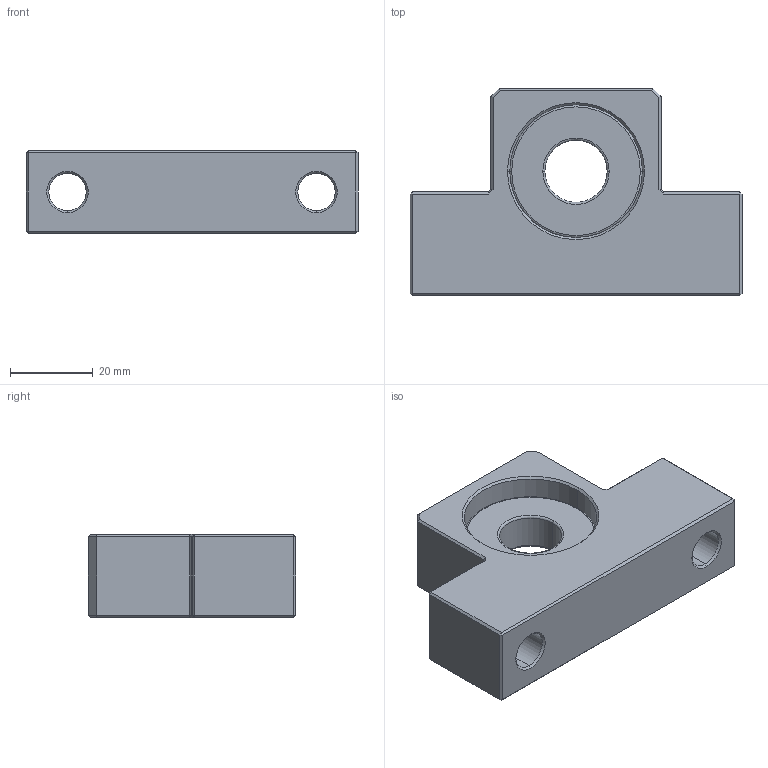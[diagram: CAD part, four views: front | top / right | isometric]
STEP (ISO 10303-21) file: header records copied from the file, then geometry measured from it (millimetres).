
FILE_DESCRIPTION (( 'STEP AP203' ), '1' );
FILE_NAME ('ESGF-15_203.STEP', '2013-02-26T01:32:00', ( '' ), ( '' ), 'SwSTEP 2.0', 'SolidWorks 2012', '' );
FILE_SCHEMA (( 'CONFIG_CONTROL_DESIGN' ));
Length unit declared in the file: millimetre
Products named in the file (1): ESGF-15_203
Bounding box: 80 x 50 x 20 mm (x, y, z)
Volume: 46677.6 mm3; surface area: 13392.7 mm2
Topology: 1 solids, 1 shells, 82 faces, 174 edges, 96 vertices
Faces by surface type: plane 52, cone 12, cylinder 10, torus 8
Entity records: 2215 total; most frequent: DIRECTION 388, CARTESIAN_POINT 353, ORIENTED_EDGE 348, EDGE_CURVE 174, AXIS2_PLACEMENT_3D 131, LINE 126, VECTOR 126, VERTEX_POINT 96
